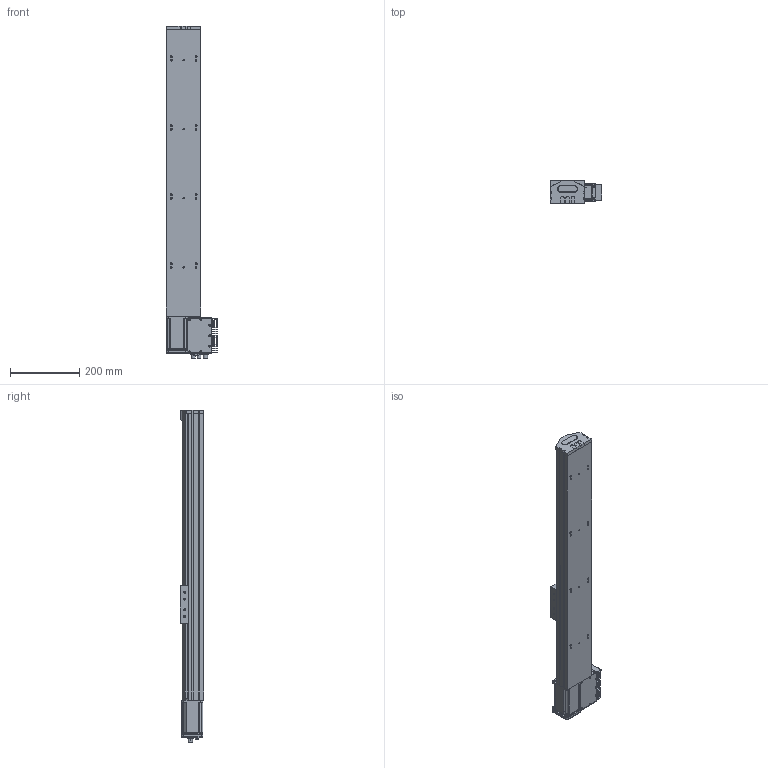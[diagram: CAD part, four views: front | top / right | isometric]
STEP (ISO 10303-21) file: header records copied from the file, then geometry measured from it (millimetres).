
FILE_DESCRIPTION (( 'STEP AP203' ), '1' );
FILE_NAME ('S 10 TSH MD S600.STEP', '2012-08-29T12:48:49', ( 'Conseil Régional Haute-Normandie' ), ( 'Conseil Régional Haute-Normandie' ), 'SwSTEP 2.0', 'SolidWorks 2010', '' );
FILE_SCHEMA (( 'CONFIG_CONTROL_DESIGN' ));
Length unit declared in the file: millimetre
Products named in the file (23): embout_modifié; S 10 TSH MD S600; remplir_Default; Colonnette_3; BU45 Carte d''axe A11_5; Moteur 60BLDC90A_3; Sub D 9cts 90_X2_00B_X0__3; Radiateur profil_X2_00E9_X0_ 100x25_3; axe830_Default; palette tbn2; piece_plastique remplieTSH_Default; Pièce2_Default; Assem1_7; T_X2_00F4_X0_le contre le moteur_5; BU41 Carte Alimentation P05_3; Couvercle_3; T_X2_00F4_X0_le fond_3; Connecteur rond D10 3cts_5; Connecteur rond D12 4cts_5; Colonnette ronde_3; T_X2_00F4_X0_le Arri_X2_00E8_X0_re_5; T_X2_00F4_X0_le lat_X2_00E9_X0_rale_5; Vis TF 3 torkx_1_1
Assembly tree (47 placements, depth 3):
  S 10 TSH MD S600
    axe830_Default
    palette tbn2
    piece_plastique remplieTSH_Default
      Pièce2_Default
      embout_modifié
      remplir_Default  x3
    Assem1_7
      Vis TF 3 torkx_1_1  x21
      Radiateur profil_X2_00E9_X0_ 100x25_3
      Colonnette_3  x2
      Moteur 60BLDC90A_3
      BU41 Carte Alimentation P05_3
      T_X2_00F4_X0_le lat_X2_00E9_X0_rale_5  x2
      T_X2_00F4_X0_le contre le moteur_5
      BU45 Carte d''axe A11_5
      Colonnette ronde_3
      Connecteur rond D10 3cts_5  x2
      Connecteur rond D12 4cts_5
      T_X2_00F4_X0_le fond_3
      Couvercle_3
      T_X2_00F4_X0_le Arri_X2_00E8_X0_re_5
      Sub D 9cts 90_X2_00B_X0__3
Bounding box: 148.26 x 66.75 x 961.6 mm (x, y, z)
Volume: 4996928 mm3; surface area: 638628 mm2
Topology: 45 solids, 45 shells, 1726 faces, 4403 edges, 2866 vertices
Faces by surface type: plane 799, cylinder 774, cone 150, torus 3
Entity records: 36182 total; most frequent: CARTESIAN_POINT 6123, DIRECTION 5908, ORIENTED_EDGE 5382, EDGE_CURVE 2691, AXIS2_PLACEMENT_3D 2164, VERTEX_POINT 1766, LINE 1580, VECTOR 1580
